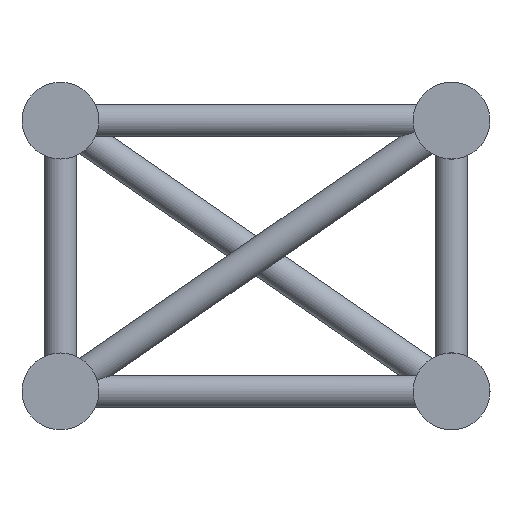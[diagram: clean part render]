
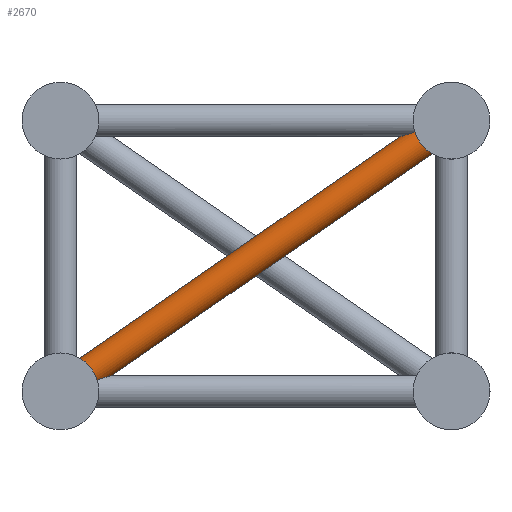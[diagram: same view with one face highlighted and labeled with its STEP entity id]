
A CAD part, left-side view. The second image highlights one B-rep face of the part: STEP entity #2670.
In plain terms, the highlighted cylindrical face has radius 12.5 mm (diameter 25 mm), a full revolution.
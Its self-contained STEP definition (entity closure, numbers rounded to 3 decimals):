
#29=ELLIPSE('',#2926,41.923,12.5);
#30=ELLIPSE('',#2928,41.923,12.5);
#110=FACE_BOUND('',#790,.T.);
#416=CYLINDRICAL_SURFACE('',#2925,12.5);
#522=FACE_OUTER_BOUND('',#789,.T.);
#789=EDGE_LOOP('',(#1943,#1944));
#790=EDGE_LOOP('',(#1945,#1946));
#1067=CIRCLE('',#2927,12.5);
#1068=CIRCLE('',#2929,12.5);
#1295=VERTEX_POINT('',#6253);
#1296=VERTEX_POINT('',#6254);
#1297=VERTEX_POINT('',#6257);
#1298=VERTEX_POINT('',#6258);
#1533=EDGE_CURVE('',#1295,#1296,#29,.T.);
#1534=EDGE_CURVE('',#1296,#1295,#1067,.T.);
#1535=EDGE_CURVE('',#1297,#1298,#30,.T.);
#1536=EDGE_CURVE('',#1298,#1297,#1068,.T.);
#1943=ORIENTED_EDGE('',*,*,#1533,.F.);
#1944=ORIENTED_EDGE('',*,*,#1534,.F.);
#1945=ORIENTED_EDGE('',*,*,#1535,.F.);
#1946=ORIENTED_EDGE('',*,*,#1536,.F.);
#2670=ADVANCED_FACE('',(#522,#110),#416,.T.);
#2925=AXIS2_PLACEMENT_3D('',#6252,#3430,#3431);
#2926=AXIS2_PLACEMENT_3D('',#6255,#3432,#3433);
#2927=AXIS2_PLACEMENT_3D('',#6256,#3434,#3435);
#2928=AXIS2_PLACEMENT_3D('',#6259,#3436,#3437);
#2929=AXIS2_PLACEMENT_3D('',#6260,#3438,#3439);
#3430=DIRECTION('center_axis',(0.,-0.822,
0.569));
#3431=DIRECTION('ref_axis',(1.,0.,0.));
#3432=DIRECTION('center_axis',(0.,0.298,
0.955));
#3433=DIRECTION('ref_axis',(0.,0.955,-0.298));
#3434=DIRECTION('center_axis',(0.,-0.822,
0.569));
#3435=DIRECTION('ref_axis',(1.,0.,0.));
#3436=DIRECTION('center_axis',(0.,-0.298,
-0.955));
#3437=DIRECTION('ref_axis',(0.,0.955,-0.298));
#3438=DIRECTION('center_axis',(0.,0.822,-0.569));
#3439=DIRECTION('ref_axis',(1.,0.,0.));
#6252=CARTESIAN_POINT('Origin',(92.5,278.173,-192.581));
#6253=CARTESIAN_POINT('',(102.177,25.331,-7.913));
#6254=CARTESIAN_POINT('',(82.823,25.331,-7.913));
#6255=CARTESIAN_POINT('Origin',(92.5,0.,
0.));
#6256=CARTESIAN_POINT('Origin',(92.5,20.827,-14.419));
#6257=CARTESIAN_POINT('',(102.177,273.669,-199.087));
#6258=CARTESIAN_POINT('',(82.823,273.669,-199.087));
#6259=CARTESIAN_POINT('Origin',(92.5,299.,-207.));
#6260=CARTESIAN_POINT('Origin',(92.5,278.173,-192.581));
